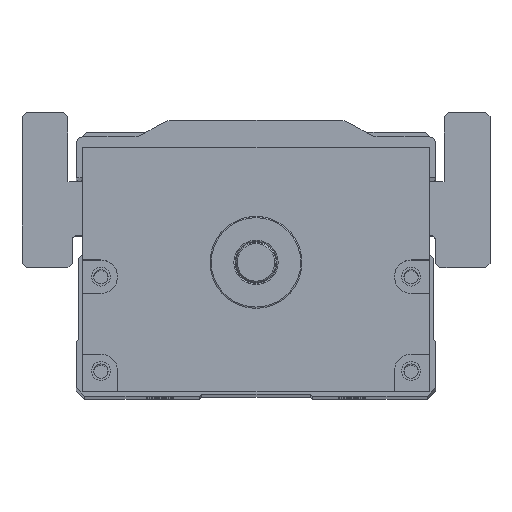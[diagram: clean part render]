
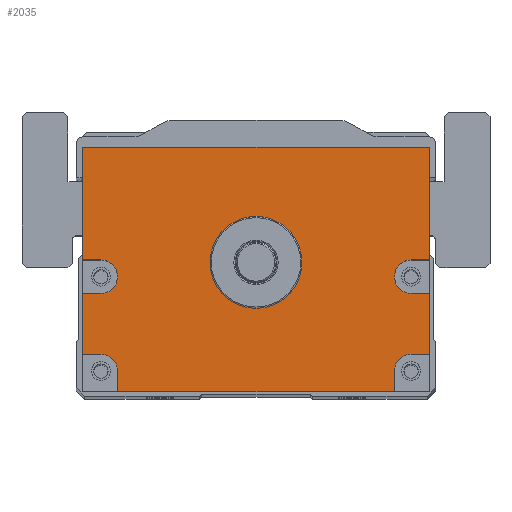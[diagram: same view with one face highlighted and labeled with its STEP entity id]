
A CAD part, top view. The second image highlights one B-rep face of the part: STEP entity #2035.
In plain terms, the highlighted planar face has unit normal (0, 0, 1).
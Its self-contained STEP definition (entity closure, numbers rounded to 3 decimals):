
#1016=FACE_BOUND('',#3643,.T.);
#1017=FACE_BOUND('',#3644,.T.);
#1487=CIRCLE('',#12007,11.);
#1498=CIRCLE('',#12021,4.);
#1499=CIRCLE('',#12022,4.);
#1500=CIRCLE('',#12023,4.);
#1501=CIRCLE('',#12024,4.);
#2035=ADVANCED_FACE('',(#1016,#1017),#2555,.T.);
#2555=PLANE('',#12025);
#3643=EDGE_LOOP('',(#5483,#5484,#5485,#5486,#5487,#5488,#5489,#5490,#5491,
#5492,#5493,#5494,#5495,#5496,#5497,#5498,#5499,#5500));
#3644=EDGE_LOOP('',(#5501));
#5483=ORIENTED_EDGE('',*,*,#9057,.F.);
#5484=ORIENTED_EDGE('',*,*,#9058,.T.);
#5485=ORIENTED_EDGE('',*,*,#9059,.F.);
#5486=ORIENTED_EDGE('',*,*,#9060,.F.);
#5487=ORIENTED_EDGE('',*,*,#9061,.F.);
#5488=ORIENTED_EDGE('',*,*,#9062,.T.);
#5489=ORIENTED_EDGE('',*,*,#9053,.T.);
#5490=ORIENTED_EDGE('',*,*,#9063,.T.);
#5491=ORIENTED_EDGE('',*,*,#9064,.F.);
#5492=ORIENTED_EDGE('',*,*,#9065,.F.);
#5493=ORIENTED_EDGE('',*,*,#9066,.F.);
#5494=ORIENTED_EDGE('',*,*,#9067,.T.);
#5495=ORIENTED_EDGE('',*,*,#9068,.F.);
#5496=ORIENTED_EDGE('',*,*,#9069,.F.);
#5497=ORIENTED_EDGE('',*,*,#9070,.F.);
#5498=ORIENTED_EDGE('',*,*,#9071,.T.);
#5499=ORIENTED_EDGE('',*,*,#9072,.F.);
#5500=ORIENTED_EDGE('',*,*,#9073,.F.);
#5501=ORIENTED_EDGE('',*,*,#9039,.T.);
#7744=VERTEX_POINT('',#25720);
#7757=VERTEX_POINT('',#25748);
#7758=VERTEX_POINT('',#25750);
#7761=VERTEX_POINT('',#25758);
#7762=VERTEX_POINT('',#25759);
#7763=VERTEX_POINT('',#25761);
#7764=VERTEX_POINT('',#25763);
#7765=VERTEX_POINT('',#25765);
#7766=VERTEX_POINT('',#25767);
#7767=VERTEX_POINT('',#25770);
#7768=VERTEX_POINT('',#25772);
#7769=VERTEX_POINT('',#25774);
#7770=VERTEX_POINT('',#25776);
#7771=VERTEX_POINT('',#25778);
#7772=VERTEX_POINT('',#25780);
#7773=VERTEX_POINT('',#25782);
#7774=VERTEX_POINT('',#25784);
#7775=VERTEX_POINT('',#25786);
#7776=VERTEX_POINT('',#25788);
#9039=EDGE_CURVE('',#7744,#7744,#1487,.T.);
#9053=EDGE_CURVE('',#7758,#7757,#10266,.T.);
#9057=EDGE_CURVE('',#7761,#7762,#10268,.T.);
#9058=EDGE_CURVE('',#7761,#7763,#10269,.T.);
#9059=EDGE_CURVE('',#7764,#7763,#10270,.T.);
#9060=EDGE_CURVE('',#7765,#7764,#1498,.T.);
#9061=EDGE_CURVE('',#7766,#7765,#10271,.T.);
#9062=EDGE_CURVE('',#7766,#7758,#10272,.T.);
#9063=EDGE_CURVE('',#7757,#7767,#10273,.T.);
#9064=EDGE_CURVE('',#7768,#7767,#10274,.T.);
#9065=EDGE_CURVE('',#7769,#7768,#1499,.T.);
#9066=EDGE_CURVE('',#7770,#7769,#10275,.T.);
#9067=EDGE_CURVE('',#7770,#7771,#10276,.T.);
#9068=EDGE_CURVE('',#7772,#7771,#10277,.T.);
#9069=EDGE_CURVE('',#7773,#7772,#1500,.T.);
#9070=EDGE_CURVE('',#7774,#7773,#10278,.T.);
#9071=EDGE_CURVE('',#7774,#7775,#10279,.T.);
#9072=EDGE_CURVE('',#7776,#7775,#10280,.T.);
#9073=EDGE_CURVE('',#7762,#7776,#1501,.T.);
#10266=LINE('',#25749,#11066);
#10268=LINE('',#25757,#11068);
#10269=LINE('',#25760,#11069);
#10270=LINE('',#25762,#11070);
#10271=LINE('',#25766,#11071);
#10272=LINE('',#25768,#11072);
#10273=LINE('',#25769,#11073);
#10274=LINE('',#25771,#11074);
#10275=LINE('',#25775,#11075);
#10276=LINE('',#25777,#11076);
#10277=LINE('',#25779,#11077);
#10278=LINE('',#25783,#11078);
#10279=LINE('',#25785,#11079);
#10280=LINE('',#25787,#11080);
#11066=VECTOR('',#13920,1.);
#11068=VECTOR('',#13928,1.);
#11069=VECTOR('',#13929,1.);
#11070=VECTOR('',#13930,1.);
#11071=VECTOR('',#13933,1.);
#11072=VECTOR('',#13934,1.);
#11073=VECTOR('',#13935,1.);
#11074=VECTOR('',#13936,1.);
#11075=VECTOR('',#13939,1.);
#11076=VECTOR('',#13940,1.);
#11077=VECTOR('',#13941,1.);
#11078=VECTOR('',#13944,1.);
#11079=VECTOR('',#13945,1.);
#11080=VECTOR('',#13946,1.);
#12007=AXIS2_PLACEMENT_3D('',#25719,#13893,#13894);
#12021=AXIS2_PLACEMENT_3D('',#25764,#13931,#13932);
#12022=AXIS2_PLACEMENT_3D('',#25773,#13937,#13938);
#12023=AXIS2_PLACEMENT_3D('',#25781,#13942,#13943);
#12024=AXIS2_PLACEMENT_3D('',#25789,#13947,#13948);
#12025=AXIS2_PLACEMENT_3D('',#25790,#13949,#13950);
#13893=DIRECTION('',(0.,0.,-1.));
#13894=DIRECTION('',(1.,0.,0.));
#13920=DIRECTION('',(-1.,0.,0.));
#13928=DIRECTION('',(-1.,0.,0.));
#13929=DIRECTION('',(0.,1.,0.));
#13930=DIRECTION('',(1.,0.,0.));
#13931=DIRECTION('',(0.,0.,1.));
#13932=DIRECTION('',(1.,0.,0.));
#13933=DIRECTION('',(-1.,0.,0.));
#13934=DIRECTION('',(0.,1.,0.));
#13935=DIRECTION('',(0.,-1.,0.));
#13936=DIRECTION('',(-1.,0.,0.));
#13937=DIRECTION('',(0.,0.,1.));
#13938=DIRECTION('',(1.,0.,0.));
#13939=DIRECTION('',(1.,0.,0.));
#13940=DIRECTION('',(0.,-1.,0.));
#13941=DIRECTION('',(-1.,0.,0.));
#13942=DIRECTION('',(0.,0.,1.));
#13943=DIRECTION('',(1.,0.,0.));
#13944=DIRECTION('',(0.,1.,0.));
#13945=DIRECTION('',(1.,0.,0.));
#13946=DIRECTION('',(0.,-1.,0.));
#13947=DIRECTION('',(0.,0.,1.));
#13948=DIRECTION('',(1.,0.,0.));
#13949=DIRECTION('',(0.,0.,1.));
#13950=DIRECTION('',(1.,0.,0.));
#25719=CARTESIAN_POINT('',(600.,0.,282.5));
#25720=CARTESIAN_POINT('',(611.,0.,282.5));
#25748=CARTESIAN_POINT('',(558.5,27.5,282.5));
#25749=CARTESIAN_POINT('',(641.5,27.5,282.5));
#25750=CARTESIAN_POINT('',(641.5,27.5,282.5));
#25757=CARTESIAN_POINT('',(641.5,-22.,282.5));
#25758=CARTESIAN_POINT('',(641.5,-22.,282.5));
#25759=CARTESIAN_POINT('',(637.115,-22.,282.5));
#25760=CARTESIAN_POINT('',(641.5,-31.,282.5));
#25761=CARTESIAN_POINT('',(641.5,-7.431,282.5));
#25762=CARTESIAN_POINT('',(641.5,-7.431,282.5));
#25763=CARTESIAN_POINT('',(637.115,-7.431,282.5));
#25764=CARTESIAN_POINT('',(637.115,-3.431,282.5));
#25765=CARTESIAN_POINT('',(637.115,0.569,282.5));
#25766=CARTESIAN_POINT('',(641.5,0.569,282.5));
#25767=CARTESIAN_POINT('',(641.5,0.569,282.5));
#25768=CARTESIAN_POINT('',(641.5,-31.,282.5));
#25769=CARTESIAN_POINT('',(558.5,27.5,282.5));
#25770=CARTESIAN_POINT('',(558.5,0.569,282.5));
#25771=CARTESIAN_POINT('',(641.5,0.569,282.5));
#25772=CARTESIAN_POINT('',(562.885,0.569,282.5));
#25773=CARTESIAN_POINT('',(562.885,-3.431,282.5));
#25774=CARTESIAN_POINT('',(562.885,-7.431,282.5));
#25775=CARTESIAN_POINT('',(641.5,-7.431,282.5));
#25776=CARTESIAN_POINT('',(558.5,-7.431,282.5));
#25777=CARTESIAN_POINT('',(558.5,27.5,282.5));
#25778=CARTESIAN_POINT('',(558.5,-22.,282.5));
#25779=CARTESIAN_POINT('',(641.5,-22.,282.5));
#25780=CARTESIAN_POINT('',(562.885,-22.,282.5));
#25781=CARTESIAN_POINT('',(562.885,-26.,282.5));
#25782=CARTESIAN_POINT('',(566.885,-26.,282.5));
#25783=CARTESIAN_POINT('',(566.885,-31.,282.5));
#25784=CARTESIAN_POINT('',(566.885,-31.,282.5));
#25785=CARTESIAN_POINT('',(558.5,-31.,282.5));
#25786=CARTESIAN_POINT('',(633.115,-31.,282.5));
#25787=CARTESIAN_POINT('',(633.115,-31.,282.5));
#25788=CARTESIAN_POINT('',(633.115,-26.,282.5));
#25789=CARTESIAN_POINT('',(637.115,-26.,282.5));
#25790=CARTESIAN_POINT('',(641.5,-31.,282.5));
